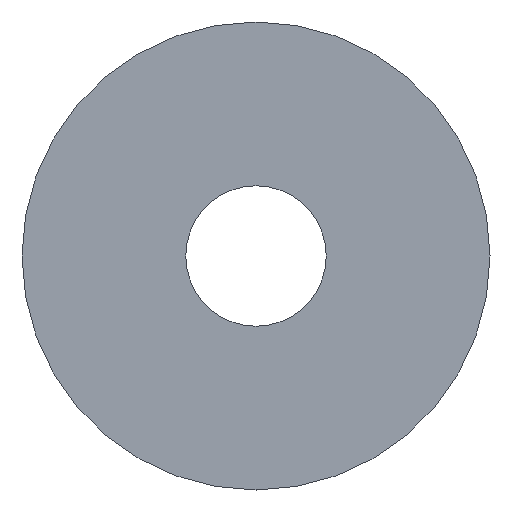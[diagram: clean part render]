
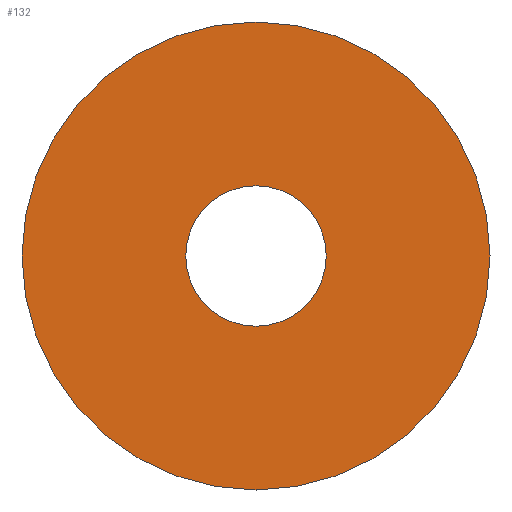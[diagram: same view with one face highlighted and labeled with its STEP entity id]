
A CAD part, front view. The second image highlights one B-rep face of the part: STEP entity #132.
In plain terms, the highlighted planar face has unit normal (0, -1, 0).
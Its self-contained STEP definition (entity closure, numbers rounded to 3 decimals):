
#7 = DIRECTION ( 'NONE',  ( -1., 0., 0. ) ) ;
#9 = DIRECTION ( 'NONE',  ( -1., 0., 0. ) ) ;
#10 = CARTESIAN_POINT ( 'NONE',  ( 0., 0., 0. ) ) ;
#23 = DIRECTION ( 'NONE',  ( -1., 0., 0. ) ) ;
#24 = ORIENTED_EDGE ( 'NONE', *, *, #271, .T. ) ;
#25 = CARTESIAN_POINT ( 'NONE',  ( 0.6, 0., 0. ) ) ;
#39 = EDGE_CURVE ( 'NONE', #155, #149, #176, .T. ) ;
#45 = DIRECTION ( 'NONE',  ( 0., 1., 0. ) ) ;
#76 = VERTEX_POINT ( 'NONE', #25 ) ;
#87 = CARTESIAN_POINT ( 'NONE',  ( 0., 0., 0. ) ) ;
#109 = CIRCLE ( 'NONE', #116, 0.6 ) ;
#111 = PLANE ( 'NONE',  #123 ) ;
#114 = DIRECTION ( 'NONE',  ( -1., 0., 0. ) ) ;
#115 = CARTESIAN_POINT ( 'NONE',  ( -0.6, 0., 0. ) ) ;
#116 = AXIS2_PLACEMENT_3D ( 'NONE', #237, #166, #9 ) ;
#122 = EDGE_LOOP ( 'NONE', ( #151, #284 ) ) ;
#123 = AXIS2_PLACEMENT_3D ( 'NONE', #130, #45, #23 ) ;
#126 = FACE_OUTER_BOUND ( 'NONE', #122, .T. ) ;
#128 = CIRCLE ( 'NONE', #198, 2. ) ;
#130 = CARTESIAN_POINT ( 'NONE',  ( 2., 0., 0. ) ) ;
#132 = ADVANCED_FACE ( 'NONE', ( #126, #154 ), #111, .F. ) ;
#138 = DIRECTION ( 'NONE',  ( 0., 1., 0. ) ) ;
#149 = VERTEX_POINT ( 'NONE', #181 ) ;
#151 = ORIENTED_EDGE ( 'NONE', *, *, #179, .F. ) ;
#154 = FACE_BOUND ( 'NONE', #232, .T. ) ;
#155 = VERTEX_POINT ( 'NONE', #282 ) ;
#164 = CARTESIAN_POINT ( 'NONE',  ( 0., 0., 0. ) ) ;
#166 = DIRECTION ( 'NONE',  ( 0., 1., 0. ) ) ;
#176 = CIRCLE ( 'NONE', #245, 2. ) ;
#179 = EDGE_CURVE ( 'NONE', #149, #155, #128, .T. ) ;
#181 = CARTESIAN_POINT ( 'NONE',  ( -2., 0., 0. ) ) ;
#194 = EDGE_CURVE ( 'NONE', #76, #202, #240, .T. ) ;
#198 = AXIS2_PLACEMENT_3D ( 'NONE', #164, #138, #114 ) ;
#202 = VERTEX_POINT ( 'NONE', #115 ) ;
#209 = DIRECTION ( 'NONE',  ( -1., 0., 0. ) ) ;
#232 = EDGE_LOOP ( 'NONE', ( #24, #299 ) ) ;
#237 = CARTESIAN_POINT ( 'NONE',  ( 0., 0., 0. ) ) ;
#240 = CIRCLE ( 'NONE', #297, 0.6 ) ;
#245 = AXIS2_PLACEMENT_3D ( 'NONE', #87, #255, #7 ) ;
#255 = DIRECTION ( 'NONE',  ( 0., 1., 0. ) ) ;
#266 = DIRECTION ( 'NONE',  ( 0., 1., 0. ) ) ;
#271 = EDGE_CURVE ( 'NONE', #202, #76, #109, .T. ) ;
#282 = CARTESIAN_POINT ( 'NONE',  ( 2., 0., 0. ) ) ;
#284 = ORIENTED_EDGE ( 'NONE', *, *, #39, .F. ) ;
#297 = AXIS2_PLACEMENT_3D ( 'NONE', #10, #266, #209 ) ;
#299 = ORIENTED_EDGE ( 'NONE', *, *, #194, .T. ) ;
